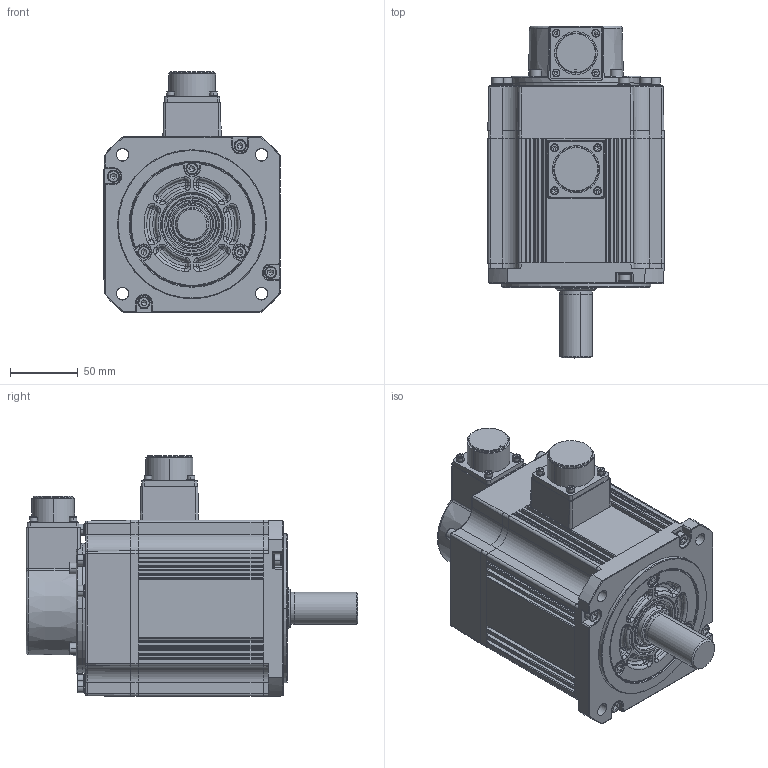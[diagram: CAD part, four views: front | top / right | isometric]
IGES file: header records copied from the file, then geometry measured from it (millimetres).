
Global section: file name: 7HNo Iges File Name specified; native system: AutoDesk Inventor R12.0; preprocessor: AutoDesk Inventor Iges Exporter R12.0; author: No Author specified; organization: No Organization specified; date: 20160715.193627; units: millimetre
Bounding box: 130.1 x 244.9 x 177.8 mm (x, y, z)
Volume: 2566886.3 mm3; surface area: 212218.6 mm2
Topology: 69 solids, 69 shells, 2412 faces, 5635 edges, 3362 vertices
Faces by surface type: plane 780, revolution 735, cylinder 389, torus 316, bspline 97, cone 86, sphere 9
